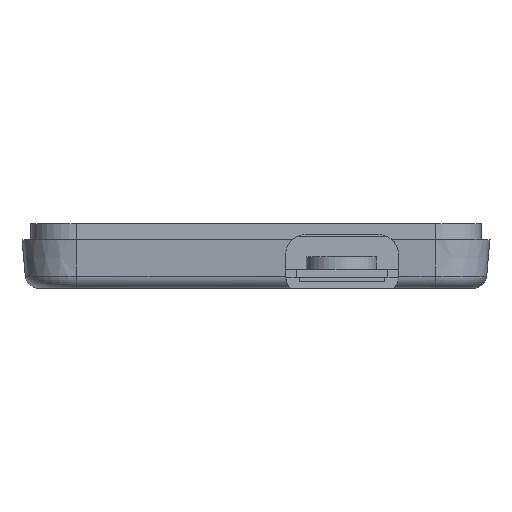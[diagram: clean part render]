
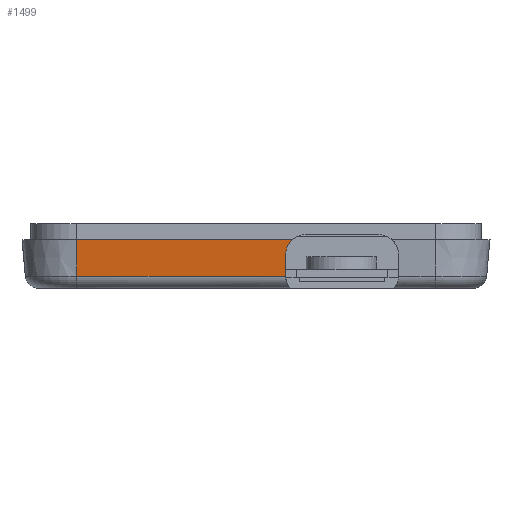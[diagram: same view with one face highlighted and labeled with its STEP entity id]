
A CAD part, front view. The second image highlights one B-rep face of the part: STEP entity #1499.
In plain terms, the highlighted planar face has unit normal (0, -0.996, -0.092).
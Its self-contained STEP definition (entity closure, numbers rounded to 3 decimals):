
#43 = CONICAL_SURFACE('',#44,6.1,0.092);
#44 = AXIS2_PLACEMENT_3D('',#45,#46,#47);
#45 = CARTESIAN_POINT('',(4.,-83.,0.));
#46 = DIRECTION('',(0.,0.,1.));
#47 = DIRECTION('',(1.,0.,0.));
#122 = PLANE('',#123);
#123 = AXIS2_PLACEMENT_3D('',#124,#125,#126);
#124 = CARTESIAN_POINT('',(24.,-43.5,0.));
#125 = DIRECTION('',(0.,0.,-1.));
#126 = DIRECTION('',(1.,0.,0.));
#375 = EDGE_CURVE('',#376,#378,#380,.T.);
#376 = VERTEX_POINT('',#377);
#377 = CARTESIAN_POINT('',(4.,-89.1,0.));
#378 = VERTEX_POINT('',#379);
#379 = CARTESIAN_POINT('',(4.,-88.726,-4.033));
#380 = SURFACE_CURVE('',#381,(#385,#391),.PCURVE_S1.);
#381 = LINE('',#382,#383);
#382 = CARTESIAN_POINT('',(4.,-89.1,0.));
#383 = VECTOR('',#384,1.);
#384 = DIRECTION('',(0.,0.092,-0.996));
#385 = PCURVE('',#43,#386);
#386 = DEFINITIONAL_REPRESENTATION('',(#387),#390);
#387 = B_SPLINE_CURVE_WITH_KNOTS('',1,(#388,#389),.UNSPECIFIED.,.F.,.F.,
  (2,2),(0.,5.418),.PIECEWISE_BEZIER_KNOTS.);
#388 = CARTESIAN_POINT('',(-1.571,0.));
#389 = CARTESIAN_POINT('',(-1.571,-5.395));
#390 = ( GEOMETRIC_REPRESENTATION_CONTEXT(2) 
PARAMETRIC_REPRESENTATION_CONTEXT() REPRESENTATION_CONTEXT('2D SPACE',''
  ) );
#391 = PCURVE('',#392,#397);
#392 = PLANE('',#393);
#393 = AXIS2_PLACEMENT_3D('',#394,#395,#396);
#394 = CARTESIAN_POINT('',(24.,-89.1,0.));
#395 = DIRECTION('',(-0.,0.996,0.092));
#396 = DIRECTION('',(0.,0.092,-0.996));
#397 = DEFINITIONAL_REPRESENTATION('',(#398),#401);
#398 = B_SPLINE_CURVE_WITH_KNOTS('',1,(#399,#400),.UNSPECIFIED.,.F.,.F.,
  (2,2),(0.,5.418),.PIECEWISE_BEZIER_KNOTS.);
#399 = CARTESIAN_POINT('',(0.,20.));
#400 = CARTESIAN_POINT('',(5.418,20.));
#401 = ( GEOMETRIC_REPRESENTATION_CONTEXT(2) 
PARAMETRIC_REPRESENTATION_CONTEXT() REPRESENTATION_CONTEXT('2D SPACE',''
  ) );
#996 = VERTEX_POINT('',#997);
#997 = CARTESIAN_POINT('',(28.006,-89.1,0.));
#1010 = CYLINDRICAL_SURFACE('',#1011,2.2);
#1011 = AXIS2_PLACEMENT_3D('',#1012,#1013,#1014);
#1012 = CARTESIAN_POINT('',(29.5,-88.2,-1.615));
#1013 = DIRECTION('',(0.,-1.,0.));
#1014 = DIRECTION('',(1.,0.,0.));
#1021 = EDGE_CURVE('',#376,#996,#1022,.T.);
#1022 = SURFACE_CURVE('',#1023,(#1027,#1034),.PCURVE_S1.);
#1023 = LINE('',#1024,#1025);
#1024 = CARTESIAN_POINT('',(24.,-89.1,0.));
#1025 = VECTOR('',#1026,1.);
#1026 = DIRECTION('',(1.,0.,0.));
#1027 = PCURVE('',#122,#1028);
#1028 = DEFINITIONAL_REPRESENTATION('',(#1029),#1033);
#1029 = LINE('',#1030,#1031);
#1030 = CARTESIAN_POINT('',(0.,45.6));
#1031 = VECTOR('',#1032,1.);
#1032 = DIRECTION('',(1.,0.));
#1033 = ( GEOMETRIC_REPRESENTATION_CONTEXT(2) 
PARAMETRIC_REPRESENTATION_CONTEXT() REPRESENTATION_CONTEXT('2D SPACE',''
  ) );
#1034 = PCURVE('',#392,#1035);
#1035 = DEFINITIONAL_REPRESENTATION('',(#1036),#1040);
#1036 = LINE('',#1037,#1038);
#1037 = CARTESIAN_POINT('',(0.,0.));
#1038 = VECTOR('',#1039,1.);
#1039 = DIRECTION('',(-0.,-1.));
#1040 = ( GEOMETRIC_REPRESENTATION_CONTEXT(2) 
PARAMETRIC_REPRESENTATION_CONTEXT() REPRESENTATION_CONTEXT('2D SPACE',''
  ) );
#1499 = ADVANCED_FACE('',(#1500),#392,.F.);
#1500 = FACE_BOUND('',#1501,.F.);
#1501 = EDGE_LOOP('',(#1502,#1536,#1562,#1563,#1564,#1592));
#1502 = ORIENTED_EDGE('',*,*,#1503,.F.);
#1503 = EDGE_CURVE('',#1504,#1506,#1508,.T.);
#1504 = VERTEX_POINT('',#1505);
#1505 = CARTESIAN_POINT('',(27.3,-88.726,
    -4.033));
#1506 = VERTEX_POINT('',#1507);
#1507 = CARTESIAN_POINT('',(27.3,-88.728,-4.015));
#1508 = SURFACE_CURVE('',#1509,(#1514,#1521),.PCURVE_S1.);
#1509 = ELLIPSE('',#1510,2.209,2.2);
#1510 = AXIS2_PLACEMENT_3D('',#1511,#1512,#1513);
#1511 = CARTESIAN_POINT('',(29.5,-88.728,-4.015));
#1512 = DIRECTION('',(-0.,0.996,0.092));
#1513 = DIRECTION('',(0.,-0.092,0.996));
#1514 = PCURVE('',#392,#1515);
#1515 = DEFINITIONAL_REPRESENTATION('',(#1516),#1520);
#1516 = ELLIPSE('',#1517,2.209,2.2);
#1517 = AXIS2_PLACEMENT_2D('',#1518,#1519);
#1518 = CARTESIAN_POINT('',(4.032,-5.5));
#1519 = DIRECTION('',(-1.,0.));
#1520 = ( GEOMETRIC_REPRESENTATION_CONTEXT(2) 
PARAMETRIC_REPRESENTATION_CONTEXT() REPRESENTATION_CONTEXT('2D SPACE',''
  ) );
#1521 = PCURVE('',#1522,#1527);
#1522 = CYLINDRICAL_SURFACE('',#1523,2.2);
#1523 = AXIS2_PLACEMENT_3D('',#1524,#1525,#1526);
#1524 = CARTESIAN_POINT('',(29.5,-88.2,-4.015));
#1525 = DIRECTION('',(0.,-1.,0.));
#1526 = DIRECTION('',(1.,0.,0.));
#1527 = DEFINITIONAL_REPRESENTATION('',(#1528),#1535);
#1528 = B_SPLINE_CURVE_WITH_KNOTS('',5,(#1529,#1530,#1531,#1532,#1533,
    #1534),.UNSPECIFIED.,.F.,.F.,(6,6),(4.519,4.712),
  .PIECEWISE_BEZIER_KNOTS.);
#1529 = CARTESIAN_POINT('',(3.334,0.489));
#1530 = CARTESIAN_POINT('',(3.296,0.497));
#1531 = CARTESIAN_POINT('',(3.257,0.504));
#1532 = CARTESIAN_POINT('',(3.219,0.512));
#1533 = CARTESIAN_POINT('',(3.18,0.52));
#1534 = CARTESIAN_POINT('',(3.142,0.528));
#1535 = ( GEOMETRIC_REPRESENTATION_CONTEXT(2) 
PARAMETRIC_REPRESENTATION_CONTEXT() REPRESENTATION_CONTEXT('2D SPACE',''
  ) );
#1536 = ORIENTED_EDGE('',*,*,#1537,.T.);
#1537 = EDGE_CURVE('',#1504,#378,#1538,.T.);
#1538 = SURFACE_CURVE('',#1539,(#1543,#1550),.PCURVE_S1.);
#1539 = LINE('',#1540,#1541);
#1540 = CARTESIAN_POINT('',(44.,-88.726,-4.033));
#1541 = VECTOR('',#1542,1.);
#1542 = DIRECTION('',(-1.,-0.,0.));
#1543 = PCURVE('',#392,#1544);
#1544 = DEFINITIONAL_REPRESENTATION('',(#1545),#1549);
#1545 = LINE('',#1546,#1547);
#1546 = CARTESIAN_POINT('',(4.051,-20.));
#1547 = VECTOR('',#1548,1.);
#1548 = DIRECTION('',(-0.,1.));
#1549 = ( GEOMETRIC_REPRESENTATION_CONTEXT(2) 
PARAMETRIC_REPRESENTATION_CONTEXT() REPRESENTATION_CONTEXT('2D SPACE',''
  ) );
#1550 = PCURVE('',#1551,#1556);
#1551 = CYLINDRICAL_SURFACE('',#1552,1.5);
#1552 = AXIS2_PLACEMENT_3D('',#1553,#1554,#1555);
#1553 = CARTESIAN_POINT('',(44.,-87.233,-3.895));
#1554 = DIRECTION('',(-1.,-0.,0.));
#1555 = DIRECTION('',(0.,-0.996,-0.092));
#1556 = DEFINITIONAL_REPRESENTATION('',(#1557),#1561);
#1557 = LINE('',#1558,#1559);
#1558 = CARTESIAN_POINT('',(-0.,0.));
#1559 = VECTOR('',#1560,1.);
#1560 = DIRECTION('',(-0.,1.));
#1561 = ( GEOMETRIC_REPRESENTATION_CONTEXT(2) 
PARAMETRIC_REPRESENTATION_CONTEXT() REPRESENTATION_CONTEXT('2D SPACE',''
  ) );
#1562 = ORIENTED_EDGE('',*,*,#375,.F.);
#1563 = ORIENTED_EDGE('',*,*,#1021,.T.);
#1564 = ORIENTED_EDGE('',*,*,#1565,.F.);
#1565 = EDGE_CURVE('',#1566,#996,#1568,.T.);
#1566 = VERTEX_POINT('',#1567);
#1567 = CARTESIAN_POINT('',(27.3,-88.95,-1.615));
#1568 = SURFACE_CURVE('',#1569,(#1574,#1581),.PCURVE_S1.);
#1569 = ELLIPSE('',#1570,2.209,2.2);
#1570 = AXIS2_PLACEMENT_3D('',#1571,#1572,#1573);
#1571 = CARTESIAN_POINT('',(29.5,-88.95,-1.615));
#1572 = DIRECTION('',(-0.,0.996,0.092));
#1573 = DIRECTION('',(0.,-0.092,0.996));
#1574 = PCURVE('',#392,#1575);
#1575 = DEFINITIONAL_REPRESENTATION('',(#1576),#1580);
#1576 = ELLIPSE('',#1577,2.209,2.2);
#1577 = AXIS2_PLACEMENT_2D('',#1578,#1579);
#1578 = CARTESIAN_POINT('',(1.622,-5.5));
#1579 = DIRECTION('',(-1.,0.));
#1580 = ( GEOMETRIC_REPRESENTATION_CONTEXT(2) 
PARAMETRIC_REPRESENTATION_CONTEXT() REPRESENTATION_CONTEXT('2D SPACE',''
  ) );
#1581 = PCURVE('',#1010,#1582);
#1582 = DEFINITIONAL_REPRESENTATION('',(#1583),#1591);
#1583 = B_SPLINE_CURVE_WITH_KNOTS('',6,(#1584,#1585,#1586,#1587,#1588,
    #1589,#1590),.UNSPECIFIED.,.F.,.F.,(7,7),(4.712,
    5.874),.PIECEWISE_BEZIER_KNOTS.);
#1584 = CARTESIAN_POINT('',(3.142,0.75));
#1585 = CARTESIAN_POINT('',(2.948,0.79));
#1586 = CARTESIAN_POINT('',(2.754,0.829));
#1587 = CARTESIAN_POINT('',(2.561,0.866));
#1588 = CARTESIAN_POINT('',(2.367,0.898));
#1589 = CARTESIAN_POINT('',(2.174,0.922));
#1590 = CARTESIAN_POINT('',(1.98,0.937));
#1591 = ( GEOMETRIC_REPRESENTATION_CONTEXT(2) 
PARAMETRIC_REPRESENTATION_CONTEXT() REPRESENTATION_CONTEXT('2D SPACE',''
  ) );
#1592 = ORIENTED_EDGE('',*,*,#1593,.T.);
#1593 = EDGE_CURVE('',#1566,#1506,#1594,.T.);
#1594 = SURFACE_CURVE('',#1595,(#1599,#1605),.PCURVE_S1.);
#1595 = LINE('',#1596,#1597);
#1596 = CARTESIAN_POINT('',(27.3,-88.912,-2.032));
#1597 = VECTOR('',#1598,1.);
#1598 = DIRECTION('',(0.,0.092,-0.996));
#1599 = PCURVE('',#392,#1600);
#1600 = DEFINITIONAL_REPRESENTATION('',(#1601),#1604);
#1601 = B_SPLINE_CURVE_WITH_KNOTS('',1,(#1602,#1603),.UNSPECIFIED.,.F.,
  .F.,(2,2),(-0.419,1.992),.PIECEWISE_BEZIER_KNOTS.);
#1602 = CARTESIAN_POINT('',(1.622,-3.3));
#1603 = CARTESIAN_POINT('',(4.032,-3.3));
#1604 = ( GEOMETRIC_REPRESENTATION_CONTEXT(2) 
PARAMETRIC_REPRESENTATION_CONTEXT() REPRESENTATION_CONTEXT('2D SPACE',''
  ) );
#1605 = PCURVE('',#1606,#1611);
#1606 = PLANE('',#1607);
#1607 = AXIS2_PLACEMENT_3D('',#1608,#1609,#1610);
#1608 = CARTESIAN_POINT('',(27.3,-88.2,-4.015));
#1609 = DIRECTION('',(1.,0.,0.));
#1610 = DIRECTION('',(0.,0.,1.));
#1611 = DEFINITIONAL_REPRESENTATION('',(#1612),#1615);
#1612 = B_SPLINE_CURVE_WITH_KNOTS('',1,(#1613,#1614),.UNSPECIFIED.,.F.,
  .F.,(2,2),(-0.419,1.992),.PIECEWISE_BEZIER_KNOTS.);
#1613 = CARTESIAN_POINT('',(2.4,0.75));
#1614 = CARTESIAN_POINT('',(0.,0.528));
#1615 = ( GEOMETRIC_REPRESENTATION_CONTEXT(2) 
PARAMETRIC_REPRESENTATION_CONTEXT() REPRESENTATION_CONTEXT('2D SPACE',''
  ) );
